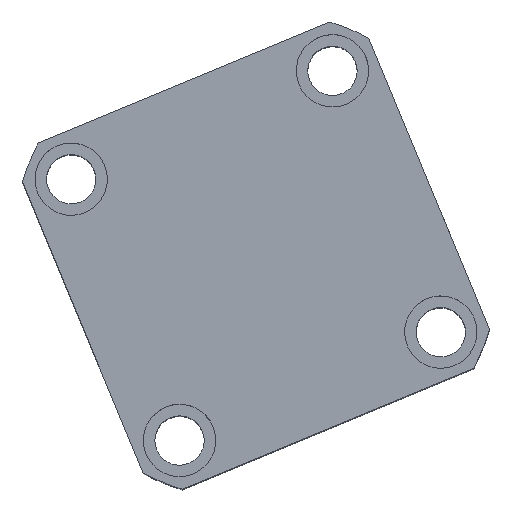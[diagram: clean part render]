
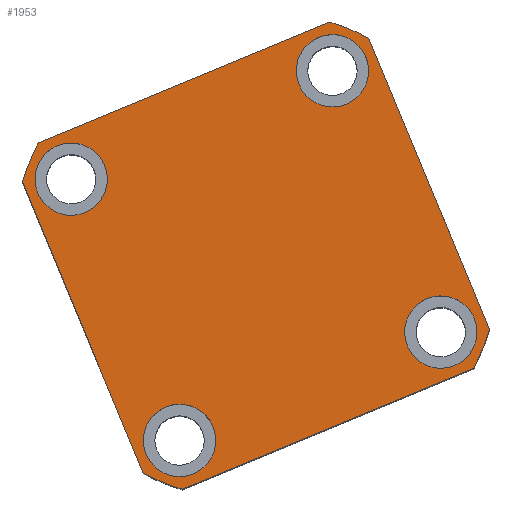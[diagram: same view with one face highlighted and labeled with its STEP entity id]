
A CAD part, top view. The second image highlights one B-rep face of the part: STEP entity #1953.
In plain terms, the highlighted planar face has unit normal (0, 0, 1) as drawn and (0, 0, -1) by its records, which use the part's own axes.
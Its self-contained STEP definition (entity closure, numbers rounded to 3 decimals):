
#157 = CIRCLE ( 'NONE', #6233, 11. ) ;
#227 = DIRECTION ( 'NONE',  ( -1., 0., 0. ) ) ;
#274 = AXIS2_PLACEMENT_3D ( 'NONE', #2036, #18222, #8257 ) ;
#454 = EDGE_CURVE ( 'NONE', #5376, #8859, #16168, .T. ) ;
#681 = AXIS2_PLACEMENT_3D ( 'NONE', #11109, #1511, #12747 ) ;
#720 = CIRCLE ( 'NONE', #681, 74.5 ) ;
#957 = EDGE_CURVE ( 'NONE', #2352, #8906, #4093, .T. ) ;
#966 = VERTEX_POINT ( 'NONE', #4703 ) ;
#988 = DIRECTION ( 'NONE',  ( 1., 0., 0. ) ) ;
#1135 = DIRECTION ( 'NONE',  ( 0., 0., -1. ) ) ;
#1241 = CARTESIAN_POINT ( 'NONE',  ( 57., 57., 0. ) ) ;
#1511 = DIRECTION ( 'NONE',  ( 0., 0., 1. ) ) ;
#1538 = CARTESIAN_POINT ( 'NONE',  ( -32., 43., 0. ) ) ;
#1865 = CIRCLE ( 'NONE', #15564, 11. ) ;
#1953 = ADVANCED_FACE ( 'NONE', ( #10400, #14686, #18772, #19264, #6083 ), #13966, .F. ) ;
#2036 = CARTESIAN_POINT ( 'NONE',  ( -43., -43., 0. ) ) ;
#2234 = EDGE_CURVE ( 'NONE', #18813, #8264, #12695, .T. ) ;
#2352 = VERTEX_POINT ( 'NONE', #4539 ) ;
#2868 = DIRECTION ( 'NONE',  ( 0., 0., -1. ) ) ;
#3096 = CIRCLE ( 'NONE', #9529, 74.5 ) ;
#3442 = DIRECTION ( 'NONE',  ( 0., 0., 1. ) ) ;
#3646 = VERTEX_POINT ( 'NONE', #9657 ) ;
#3824 = VERTEX_POINT ( 'NONE', #12605 ) ;
#3875 = CARTESIAN_POINT ( 'NONE',  ( -57., -57., 0. ) ) ;
#4070 = AXIS2_PLACEMENT_3D ( 'NONE', #4733, #15994, #6359 ) ;
#4093 = LINE ( 'NONE', #4814, #12190 ) ;
#4262 = DIRECTION ( 'NONE',  ( 1., 0., 0. ) ) ;
#4273 = CIRCLE ( 'NONE', #4070, 11. ) ;
#4539 = CARTESIAN_POINT ( 'NONE',  ( -57., 47.971, 0. ) ) ;
#4703 = CARTESIAN_POINT ( 'NONE',  ( 32., -43., 0. ) ) ;
#4733 = CARTESIAN_POINT ( 'NONE',  ( -43., 43., 0. ) ) ;
#4757 = CARTESIAN_POINT ( 'NONE',  ( -54., 43., 0. ) ) ;
#4814 = CARTESIAN_POINT ( 'NONE',  ( -57., 57., 0. ) ) ;
#4885 = DIRECTION ( 'NONE',  ( 0., 0., -1. ) ) ;
#4891 = EDGE_CURVE ( 'NONE', #19944, #3646, #5531, .T. ) ;
#4900 = DIRECTION ( 'NONE',  ( 0., -1., 0. ) ) ;
#5256 = CARTESIAN_POINT ( 'NONE',  ( -47.971, 57., 0. ) ) ;
#5262 = AXIS2_PLACEMENT_3D ( 'NONE', #15421, #5770, #16959 ) ;
#5376 = VERTEX_POINT ( 'NONE', #5796 ) ;
#5531 = CIRCLE ( 'NONE', #20097, 11. ) ;
#5770 = DIRECTION ( 'NONE',  ( 0., 0., -1. ) ) ;
#5796 = CARTESIAN_POINT ( 'NONE',  ( -32., -43., 0. ) ) ;
#5922 = CARTESIAN_POINT ( 'NONE',  ( -43., 43., 0. ) ) ;
#6083 = FACE_OUTER_BOUND ( 'NONE', #19789, .T. ) ;
#6233 = AXIS2_PLACEMENT_3D ( 'NONE', #14573, #4885, #16118 ) ;
#6359 = DIRECTION ( 'NONE',  ( -1., 0., 0. ) ) ;
#6586 = DIRECTION ( 'NONE',  ( 0., 0., -1. ) ) ;
#6634 = ORIENTED_EDGE ( 'NONE', *, *, #10575, .F. ) ;
#7035 = VERTEX_POINT ( 'NONE', #4757 ) ;
#7120 = ORIENTED_EDGE ( 'NONE', *, *, #17859, .F. ) ;
#7232 = VERTEX_POINT ( 'NONE', #13476 ) ;
#7380 = EDGE_CURVE ( 'NONE', #966, #13944, #10709, .T. ) ;
#7503 = EDGE_CURVE ( 'NONE', #18587, #7035, #13996, .T. ) ;
#7537 = DIRECTION ( 'NONE',  ( -1., 0., 0. ) ) ;
#7732 = EDGE_CURVE ( 'NONE', #15635, #2352, #720, .T. ) ;
#7911 = VECTOR ( 'NONE', #18078, 1000. ) ;
#8074 = EDGE_LOOP ( 'NONE', ( #13764, #12769 ) ) ;
#8257 = DIRECTION ( 'NONE',  ( -1., 0., 0. ) ) ;
#8264 = VERTEX_POINT ( 'NONE', #12922 ) ;
#8561 = EDGE_LOOP ( 'NONE', ( #13508, #16194 ) ) ;
#8643 = VECTOR ( 'NONE', #227, 1000. ) ;
#8834 = CARTESIAN_POINT ( 'NONE',  ( 0., 0., 0. ) ) ;
#8859 = VERTEX_POINT ( 'NONE', #19277 ) ;
#8906 = VERTEX_POINT ( 'NONE', #13315 ) ;
#9050 = DIRECTION ( 'NONE',  ( 0., 0., 1. ) ) ;
#9142 = ORIENTED_EDGE ( 'NONE', *, *, #17247, .F. ) ;
#9216 = EDGE_CURVE ( 'NONE', #8264, #15710, #18779, .T. ) ;
#9529 = AXIS2_PLACEMENT_3D ( 'NONE', #8834, #19869, #10494 ) ;
#9653 = ORIENTED_EDGE ( 'NONE', *, *, #12558, .F. ) ;
#9657 = CARTESIAN_POINT ( 'NONE',  ( 32., 43., 0. ) ) ;
#10023 = AXIS2_PLACEMENT_3D ( 'NONE', #13114, #3442, #14731 ) ;
#10400 = FACE_BOUND ( 'NONE', #15168, .T. ) ;
#10494 = DIRECTION ( 'NONE',  ( 1., 0., 0. ) ) ;
#10559 = DIRECTION ( 'NONE',  ( 0., 0., 1. ) ) ;
#10575 = EDGE_CURVE ( 'NONE', #15710, #3824, #11421, .T. ) ;
#10709 = CIRCLE ( 'NONE', #5262, 11. ) ;
#10723 = ORIENTED_EDGE ( 'NONE', *, *, #4891, .F. ) ;
#10738 = CARTESIAN_POINT ( 'NONE',  ( 43., 43., 0. ) ) ;
#10786 = CARTESIAN_POINT ( 'NONE',  ( 0., 0., 0. ) ) ;
#10928 = VECTOR ( 'NONE', #14151, 1000. ) ;
#11109 = CARTESIAN_POINT ( 'NONE',  ( 0., 0., 0. ) ) ;
#11421 = CIRCLE ( 'NONE', #10023, 74.5 ) ;
#11730 = ORIENTED_EDGE ( 'NONE', *, *, #19545, .F. ) ;
#11917 = CARTESIAN_POINT ( 'NONE',  ( 57., 47.971, 0. ) ) ;
#12190 = VECTOR ( 'NONE', #4900, 1000. ) ;
#12204 = ORIENTED_EDGE ( 'NONE', *, *, #7732, .F. ) ;
#12353 = DIRECTION ( 'NONE',  ( -1., 0., 0. ) ) ;
#12433 = ORIENTED_EDGE ( 'NONE', *, *, #454, .F. ) ;
#12479 = EDGE_CURVE ( 'NONE', #7035, #18587, #4273, .T. ) ;
#12548 = CARTESIAN_POINT ( 'NONE',  ( 43., -43., 0. ) ) ;
#12558 = EDGE_CURVE ( 'NONE', #8859, #5376, #157, .T. ) ;
#12605 = CARTESIAN_POINT ( 'NONE',  ( 47.971, 57., 0. ) ) ;
#12695 = CIRCLE ( 'NONE', #16519, 74.5 ) ;
#12747 = DIRECTION ( 'NONE',  ( 1., 0., 0. ) ) ;
#12769 = ORIENTED_EDGE ( 'NONE', *, *, #19096, .F. ) ;
#12858 = CARTESIAN_POINT ( 'NONE',  ( -57., 57., 0. ) ) ;
#12922 = CARTESIAN_POINT ( 'NONE',  ( 57., -47.971, 0. ) ) ;
#13114 = CARTESIAN_POINT ( 'NONE',  ( 0., 0., 0. ) ) ;
#13315 = CARTESIAN_POINT ( 'NONE',  ( -57., -47.971, 0. ) ) ;
#13391 = AXIS2_PLACEMENT_3D ( 'NONE', #10786, #9050, #4262 ) ;
#13462 = CIRCLE ( 'NONE', #20048, 11. ) ;
#13476 = CARTESIAN_POINT ( 'NONE',  ( -47.971, -57., 0. ) ) ;
#13486 = LINE ( 'NONE', #12858, #8643 ) ;
#13508 = ORIENTED_EDGE ( 'NONE', *, *, #12479, .F. ) ;
#13764 = ORIENTED_EDGE ( 'NONE', *, *, #7380, .F. ) ;
#13944 = VERTEX_POINT ( 'NONE', #20295 ) ;
#13966 = PLANE ( 'NONE',  #13391 ) ;
#13996 = CIRCLE ( 'NONE', #15018, 11. ) ;
#14151 = DIRECTION ( 'NONE',  ( 0., 1., 0. ) ) ;
#14159 = DIRECTION ( 'NONE',  ( -1., 0., 0. ) ) ;
#14215 = ORIENTED_EDGE ( 'NONE', *, *, #18896, .F. ) ;
#14573 = CARTESIAN_POINT ( 'NONE',  ( -43., -43., 0. ) ) ;
#14686 = FACE_BOUND ( 'NONE', #8074, .T. ) ;
#14731 = DIRECTION ( 'NONE',  ( 1., 0., 0. ) ) ;
#14912 = CARTESIAN_POINT ( 'NONE',  ( 54., 43., 0. ) ) ;
#15018 = AXIS2_PLACEMENT_3D ( 'NONE', #5922, #17094, #7537 ) ;
#15168 = EDGE_LOOP ( 'NONE', ( #9653, #12433 ) ) ;
#15421 = CARTESIAN_POINT ( 'NONE',  ( 43., -43., 0. ) ) ;
#15564 = AXIS2_PLACEMENT_3D ( 'NONE', #10738, #1135, #12353 ) ;
#15635 = VERTEX_POINT ( 'NONE', #5256 ) ;
#15710 = VERTEX_POINT ( 'NONE', #11917 ) ;
#15994 = DIRECTION ( 'NONE',  ( 0., 0., -1. ) ) ;
#16118 = DIRECTION ( 'NONE',  ( -1., 0., 0. ) ) ;
#16168 = CIRCLE ( 'NONE', #274, 11. ) ;
#16194 = ORIENTED_EDGE ( 'NONE', *, *, #7503, .F. ) ;
#16217 = CARTESIAN_POINT ( 'NONE',  ( 43., 43., 0. ) ) ;
#16402 = LINE ( 'NONE', #3875, #7911 ) ;
#16519 = AXIS2_PLACEMENT_3D ( 'NONE', #19930, #10559, #988 ) ;
#16959 = DIRECTION ( 'NONE',  ( -1., 0., 0. ) ) ;
#17094 = DIRECTION ( 'NONE',  ( 0., 0., -1. ) ) ;
#17247 = EDGE_CURVE ( 'NONE', #7232, #18813, #16402, .T. ) ;
#17358 = ORIENTED_EDGE ( 'NONE', *, *, #2234, .F. ) ;
#17375 = ORIENTED_EDGE ( 'NONE', *, *, #9216, .F. ) ;
#17729 = DIRECTION ( 'NONE',  ( -1., 0., 0. ) ) ;
#17859 = EDGE_CURVE ( 'NONE', #3824, #15635, #13486, .T. ) ;
#18078 = DIRECTION ( 'NONE',  ( 1., 0., 0. ) ) ;
#18186 = CARTESIAN_POINT ( 'NONE',  ( 47.971, -57., 0. ) ) ;
#18222 = DIRECTION ( 'NONE',  ( 0., 0., -1. ) ) ;
#18587 = VERTEX_POINT ( 'NONE', #1538 ) ;
#18772 = FACE_BOUND ( 'NONE', #20197, .T. ) ;
#18779 = LINE ( 'NONE', #1241, #10928 ) ;
#18783 = ORIENTED_EDGE ( 'NONE', *, *, #957, .F. ) ;
#18813 = VERTEX_POINT ( 'NONE', #18186 ) ;
#18896 = EDGE_CURVE ( 'NONE', #8906, #7232, #3096, .T. ) ;
#19096 = EDGE_CURVE ( 'NONE', #13944, #966, #13462, .T. ) ;
#19264 = FACE_BOUND ( 'NONE', #8561, .T. ) ;
#19277 = CARTESIAN_POINT ( 'NONE',  ( -54., -43., 0. ) ) ;
#19545 = EDGE_CURVE ( 'NONE', #3646, #19944, #1865, .T. ) ;
#19789 = EDGE_LOOP ( 'NONE', ( #6634, #17375, #17358, #9142, #14215, #18783, #12204, #7120 ) ) ;
#19869 = DIRECTION ( 'NONE',  ( 0., 0., 1. ) ) ;
#19930 = CARTESIAN_POINT ( 'NONE',  ( 0., 0., 0. ) ) ;
#19944 = VERTEX_POINT ( 'NONE', #14912 ) ;
#20048 = AXIS2_PLACEMENT_3D ( 'NONE', #12548, #2868, #14159 ) ;
#20097 = AXIS2_PLACEMENT_3D ( 'NONE', #16217, #6586, #17729 ) ;
#20197 = EDGE_LOOP ( 'NONE', ( #11730, #10723 ) ) ;
#20295 = CARTESIAN_POINT ( 'NONE',  ( 54., -43., 0. ) ) ;
